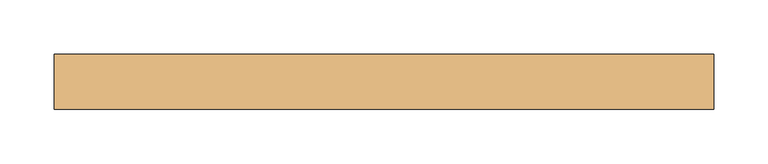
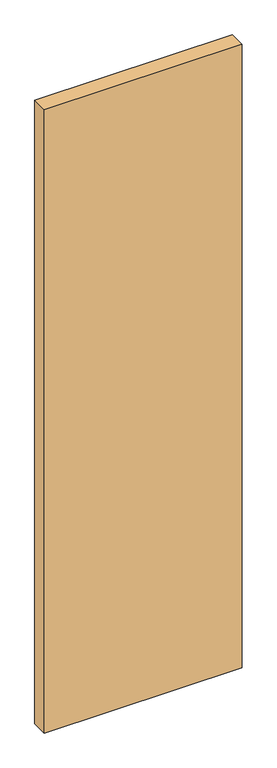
"""IFC4 building model written with IfcOpenShell, lengths in millimetres: door geometry."""

import ifcopenshell
import ifcopenshell.guid

model = None  # the IFC model being written
_history = None  # IfcOwnerHistory: only IFC2X3 demands one
_inside = {}  # id of a spatial element -> (the spatial element, [elements in it])
_under = {}  # id of a project, library or spatial element -> (it, [spatial elements below it])
_declared = {}  # id of a project -> (the project, [libraries it declares])
_typed = {}  # id of a type object -> (the type object, [elements of that type])
_made_of = {}  # id of a material, layer set ... -> (it, [elements and type objects made of it])


def new_model(schema):
    """Start an empty IFC model of exactly this schema.

    Asked for "IFC4X3", IfcOpenShell would pick the latest addendum, in which some entities
    have other attributes; the version numbers below select the first issue.
    IFC2X3 requires an IfcOwnerHistory on every rooted entity: one is made here for all.
    """
    global model, _history
    if schema == "IFC4X3":
        model = ifcopenshell.file(schema_version=(4, 3, 0, 0))
    else:
        model = ifcopenshell.file(schema=schema)
    _inside.clear()
    _under.clear()
    _declared.clear()
    _typed.clear()
    _made_of.clear()
    _history = None
    if model.schema == "IFC2X3":
        org = make("IfcOrganization", Name="unknown")
        user = make(
            "IfcPersonAndOrganization",
            ThePerson=make("IfcPerson", FamilyName="unknown"),
            TheOrganization=org,
        )
        app = make(
            "IfcApplication",
            ApplicationDeveloper=org,
            Version="unknown",
            ApplicationFullName="unknown",
            ApplicationIdentifier="unknown",
        )
        _history = make(
            "IfcOwnerHistory",
            OwningUser=user,
            OwningApplication=app,
            ChangeAction="ADDED",
            CreationDate=0,
        )
    return model


def make(cls, **values):
    """One entity of the class cls with the attributes given. An attribute that is None is left unset."""
    return model.create_entity(
        cls, **{name: value for name, value in values.items() if value is not None}
    )


def rooted(cls, **values):
    """An entity with a GlobalId (a new one), such as an element, a storey or a relation."""
    return make(cls, GlobalId=ifcopenshell.guid.new(), OwnerHistory=_history, **values)


def si_unit(unit_type, name, prefix=None):
    """IfcSIUnit, for example si_unit("LENGTHUNIT", "METRE", prefix="MILLI")."""
    return make("IfcSIUnit", UnitType=unit_type, Prefix=prefix, Name=name)


def assignment(units):
    """IfcUnitAssignment: the units of a project."""
    return None if units is None else make("IfcUnitAssignment", Units=units)


def point(xyz):
    """IfcCartesianPoint."""
    return None if xyz is None else make("IfcCartesianPoint", Coordinates=xyz)


def direction(xyz):
    """IfcDirection."""
    return None if xyz is None else make("IfcDirection", DirectionRatios=xyz)


def frame(location, z_axis=None, x_axis=None):
    """IfcAxis2Placement3D, a coordinate frame: its origin and axes. An axis left out is left unset."""
    return make(
        "IfcAxis2Placement3D",
        Location=point(location),
        Axis=direction(z_axis),
        RefDirection=direction(x_axis),
    )


def origin():
    """The frame at (0, 0, 0) with its axes left unset."""
    return frame((0.0, 0.0, 0.0))


def origin_with_axes():
    """The frame at (0, 0, 0) with the z axis (0, 0, 1) and the x axis (1, 0, 0) written out."""
    return frame((0.0, 0.0, 0.0), z_axis=(0.0, 0.0, 1.0), x_axis=(1.0, 0.0, 0.0))


def place(relative_to, where):
    """IfcLocalPlacement: puts the frame where relative to a parent placement (None: the world)."""
    return make(
        "IfcLocalPlacement", PlacementRelTo=relative_to, RelativePlacement=where
    )


def context(
    kind, dimensions, precision=None, world=None, true_north=None, identifier=None
):
    """IfcGeometricRepresentationContext, for example the 3D "Model" context."""
    return make(
        "IfcGeometricRepresentationContext",
        ContextIdentifier=identifier,
        ContextType=kind,
        CoordinateSpaceDimension=dimensions,
        Precision=precision,
        WorldCoordinateSystem=world,
        TrueNorth=true_north,
    )


def project(units=None, contexts=None):
    """IfcProject with its units and contexts."""
    return rooted(
        "IfcProject",
        Name="project",
        RepresentationContexts=contexts,
        UnitsInContext=assignment(units),
    )


def spatial(cls, under=None, at=None, **own):
    """A site, building, storey or space (cls), placed at a placement, below another one or the project."""
    s = rooted(cls, ObjectPlacement=at, **own)
    if under is not None:
        _under.setdefault(under.id(), (under, []))[1].append(s)
    return s


def polyline(points):
    """IfcPolyline through the points."""
    return make("IfcPolyline", Points=[point(p) for p in points])


def outline(outer, holes=None, kind="AREA"):
    """IfcArbitraryClosedProfileDef: a profile drawn as a closed curve; with holes, ...WithVoids."""
    if holes is None:
        return make("IfcArbitraryClosedProfileDef", ProfileType=kind, OuterCurve=outer)
    return make(
        "IfcArbitraryProfileDefWithVoids",
        ProfileType=kind,
        OuterCurve=outer,
        InnerCurves=holes,
    )


def extrude(swept, where, along, depth):
    """IfcExtrudedAreaSolid: the profile swept, set in the frame where, extruded along a direction by depth."""
    return make(
        "IfcExtrudedAreaSolid",
        SweptArea=swept,
        Position=where,
        ExtrudedDirection=direction(along),
        Depth=depth,
    )


def shape(context_of_items, identifier, shape_type, items):
    """IfcShapeRepresentation: the items that make up one representation, for example the "Body"."""
    return make(
        "IfcShapeRepresentation",
        ContextOfItems=context_of_items,
        RepresentationIdentifier=identifier,
        RepresentationType=shape_type,
        Items=items,
    )


def source(mapping_origin, context_of_items, identifier, shape_type, items):
    """IfcRepresentationMap: a shape defined once, which mapped items show again and again."""
    return make(
        "IfcRepresentationMap",
        MappingOrigin=mapping_origin,
        MappedRepresentation=shape(context_of_items, identifier, shape_type, items),
    )


def transform(
    local_origin,
    x_axis=None,
    y_axis=None,
    z_axis=None,
    scale=None,
    scale2=None,
    scale3=None,
    uniform=True,
):
    """IfcCartesianTransformationOperator3D, or its non-uniform kind. x_axis, y_axis, z_axis: its Axis1, 2, 3."""
    if uniform:
        return make(
            "IfcCartesianTransformationOperator3D",
            Axis1=direction(x_axis),
            Axis2=direction(y_axis),
            LocalOrigin=point(local_origin),
            Scale=scale,
            Axis3=direction(z_axis),
        )
    return make(
        "IfcCartesianTransformationOperator3DnonUniform",
        Axis1=direction(x_axis),
        Axis2=direction(y_axis),
        LocalOrigin=point(local_origin),
        Scale=scale,
        Axis3=direction(z_axis),
        Scale2=scale2,
        Scale3=scale3,
    )


def mapped(mapping_source, mapping_target):
    """IfcMappedItem: shows the shape of a source again, moved by a transform."""
    return make(
        "IfcMappedItem", MappingSource=mapping_source, MappingTarget=mapping_target
    )


def made_of(thing, what):
    """Note that an element or type object is made of a material, layer set ...; save() writes the relation."""
    if what is not None:
        _made_of.setdefault(what.id(), (what, []))[1].append(thing)
    return thing


def element(
    cls,
    number,
    at=None,
    inside=None,
    cuts=None,
    type_object=None,
    material=None,
    context=None,
    identifier="Body",
    shape_type=None,
    held_by="IfcProductDefinitionShape",
    body=None,
    shapes=None,
    **own,
):
    """One element of the class cls, such as IfcWall. Its Tag is "e" and its number.

    at: its placement. inside: the storey or other place that contains it. cuts: it is an
    opening in that element (IfcRelVoidsElement). A single representation is given by context,
    identifier, shape_type and body (its items); several are given by shapes. held_by: the class
    of the entity that holds the representations. save() writes the other relations.
    """
    e = rooted(cls, Tag="e%d" % number, ObjectPlacement=at, **own)
    if body is not None:
        shapes = [shape(context, identifier, shape_type, body)]
    if shapes is not None:
        e.Representation = make(held_by, Representations=shapes)
    if inside is not None:
        _inside.setdefault(inside.id(), (inside, []))[1].append(e)
    if cuts is not None:
        rooted(
            "IfcRelVoidsElement", RelatingBuildingElement=cuts, RelatedOpeningElement=e
        )
    if type_object is not None:
        _typed.setdefault(type_object.id(), (type_object, []))[1].append(e)
    return made_of(e, material)


def aggregate(whole, parts):
    """IfcRelAggregates: a whole, such as a stair, and the parts it consists of."""
    return rooted("IfcRelAggregates", RelatingObject=whole, RelatedObjects=parts)


def save(model, path):
    """Write the relations noted so far, then the file.

    IfcRelAggregates (storeys below a building ...), IfcRelContainedInSpatialStructure (elements
    in a storey), IfcRelDefinesByType, IfcRelAssociatesMaterial and IfcRelDeclares: one each for
    every whole, place, type object, material and project.
    """
    for whole, parts in _under.values():
        aggregate(whole, parts)
    for where, things in _inside.values():
        rooted(
            "IfcRelContainedInSpatialStructure",
            RelatedElements=things,
            RelatingStructure=where,
        )
    for kind, things in _typed.values():
        rooted("IfcRelDefinesByType", RelatedObjects=things, RelatingType=kind)
    for what, things in _made_of.values():
        rooted("IfcRelAssociatesMaterial", RelatedObjects=things, RelatingMaterial=what)
    for by, libraries in _declared.values():
        rooted("IfcRelDeclares", RelatingContext=by, RelatedDefinitions=libraries)
    model.write(path)


def door_b2eef15f(model_context):
    return source(origin(), model_context, "Body", "SweptSolid", [
        extrude(outline(polyline([(304.8, -6.1515625), (304.8, -57.15), (-304.8, -57.15), (-304.8, -6.1515625), (304.8, -6.1515625)])), origin_with_axes(), (0.0, 0.0, 1.0), 2032.0),
    ])


if __name__ == "__main__":
    model = new_model("IFC4")
    model_context = context("Model", 3, world=origin())
    ifc_project = project(units=[si_unit("LENGTHUNIT", "METRE", prefix="MILLI")], contexts=[model_context])
    site = spatial("IfcSite", under=ifc_project)
    building = spatial("IfcBuilding", under=site)
    placement = place(None, origin())
    door_shape = door_b2eef15f(model_context)
    element("IfcDoor", 1, ObjectType="Planitar - Single Door_Flush Panel : 2'-0\" x 6'-8\" @45", at=placement, inside=building, context=model_context, shape_type="MappedRepresentation", body=[
        mapped(door_shape, transform((0.0, 0.0, 0.0), x_axis=(1.0, 0.0, 0.0), y_axis=(0.0, 1.0, 0.0), z_axis=(0.0, 0.0, 1.0))),
    ])
    save(model, "model.ifc")
